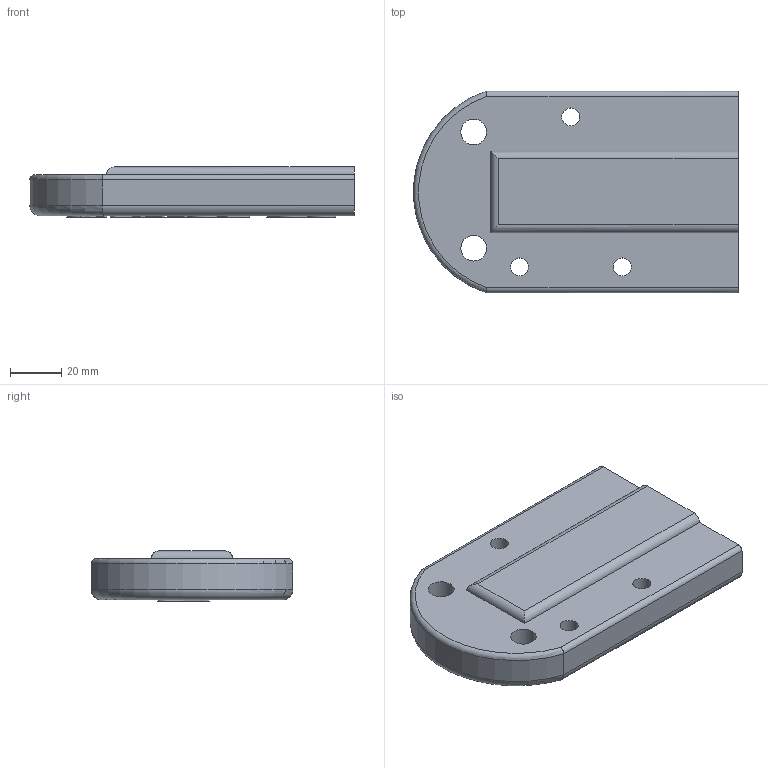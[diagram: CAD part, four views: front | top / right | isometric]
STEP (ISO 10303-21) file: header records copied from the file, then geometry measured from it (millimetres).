
FILE_DESCRIPTION(('STEP AP203'), '1');
FILE_NAME('ãîëîâêà ãðèôà íèç', '', ('UNSPECIFIED'), ('UNSPECIFIED'), 'ASCON STEP Converter 1.3', 'ASCON Math Kernel', '');
FILE_SCHEMA(('CONFIG_CONTROL_DESIGN'));
Length unit declared in the file: millimetre
Bounding box: 126.11 x 78.3 x 19.5 mm (x, y, z)
Volume: 115670.4 mm3; surface area: 34766.8 mm2
Topology: 1 solids, 1 shells, 415 faces, 1199 edges, 798 vertices
Faces by surface type: cylinder 309, plane 104, torus 2
Full cylindrical faces by diameter (mm): 7 x3, 10 x2
Entity records: 17374 total; most frequent: DIRECTION 2632, CARTESIAN_POINT 2484, ORIENTED_EDGE 2388, EDGE_CURVE 1194, AXIS2_PLACEMENT_3D 1028, VERTEX_POINT 798, CIRCLE 612, LINE 576
